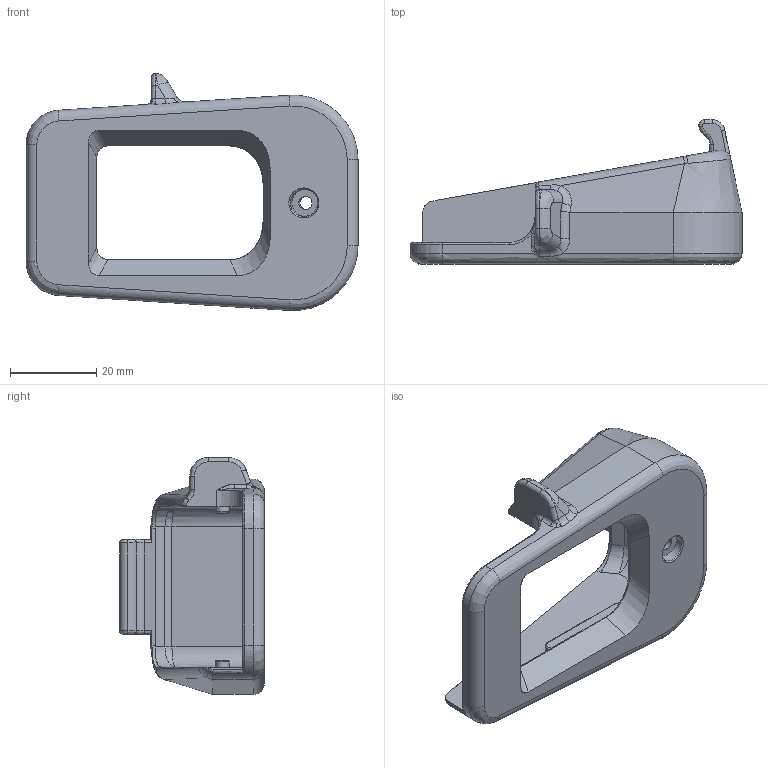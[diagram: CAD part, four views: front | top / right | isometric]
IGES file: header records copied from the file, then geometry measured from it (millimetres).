
Start section:  PTC IGES file: option-magwell-4.igs
Global section: file name: option-magwell-4.igs; native system: Pro/ENGINEER by Parametric Technology Corporation; preprocessor: 1999140; author: PROWIN; organization: Unknown; date: 260119.174659; units: millimetre
Bounding box: 77 x 33.5 x 54.96 mm (x, y, z)
Surface area: 12014 mm2 (no closed solid volume)
Topology: 0 solids, 0 shells, 159 faces, 1162 edges, 1546 vertices
Faces by surface type: revolution 82, bspline 73, extrusion 4
